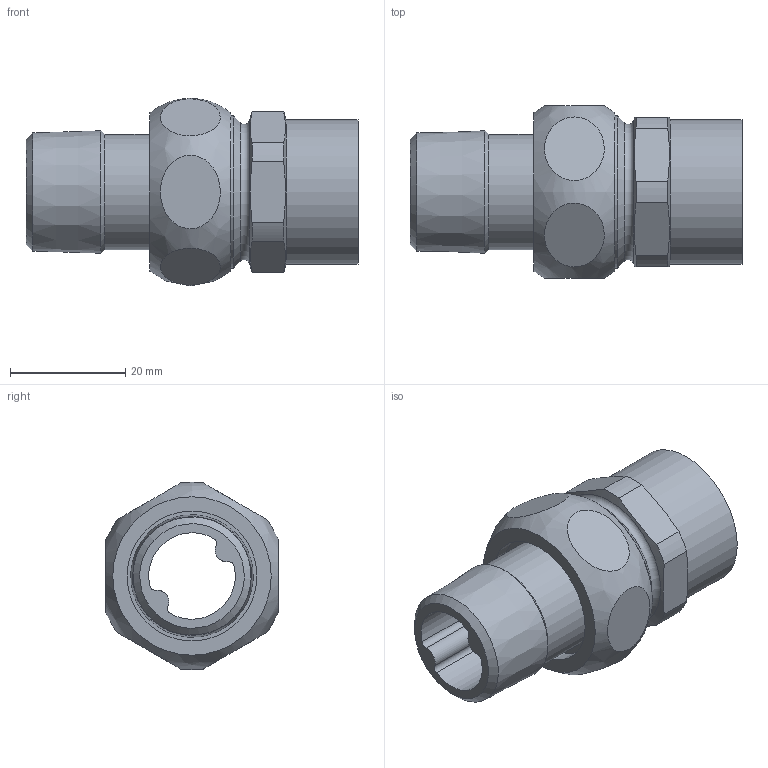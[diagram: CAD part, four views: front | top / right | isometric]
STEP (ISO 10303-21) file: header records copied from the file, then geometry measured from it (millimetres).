
FILE_DESCRIPTION(/* description */ (''),/* implementation_level */ '2;1');
FILE_NAME(/* name */ '\\lg50011\SANHA_LEGNICA\Engineering\Public\RYSUNKI\SANHA POLSKA\4341g\inventor\14341g_22-12(1).stp',/* time_stamp */ '2022-05-25T08:00:55+02:00',/* author */ ('gomulka'),/* organization */ (''),/* preprocessor_version */ 'ST-DEVELOPER v19',/* originating_system */ 'Autodesk Inventor 2023',/* authorisation */ '');
FILE_SCHEMA (('AUTOMOTIVE_DESIGN { 1 0 10303 214 3 1 1 }'));
Products named in the file (4): 14341g_22-12(1); 14374_34(2); 14380_22-34(1); 14382_12-34(3)
Assembly tree (3 placements, depth 2):
  14341g_22-12(1)
    14374_34(2)
    14380_22-34(1)
    14382_12-34(3)
Bounding box: 57.57 x 29.9 x 32.5 mm (x, y, z)
Volume: 14884.2 mm3; surface area: 11611.3 mm2
Topology: 3 solids, 3 shells, 58 faces, 129 edges, 86 vertices
Faces by surface type: plane 23, cylinder 23, cone 9, torus 2, bspline 1
Full cylindrical faces by diameter (mm): 17 x1, 20 x1, 21 x1, 22 x1, 22.5 x1, 23.5 x1, 24.117 x1, 25 x1, 26.44 x1
Entity records: 2204 total; most frequent: CARTESIAN_POINT 728, DIRECTION 296, ORIENTED_EDGE 258, EDGE_CURVE 129, AXIS2_PLACEMENT_3D 129, VERTEX_POINT 86, EDGE_LOOP 73, CIRCLE 65
